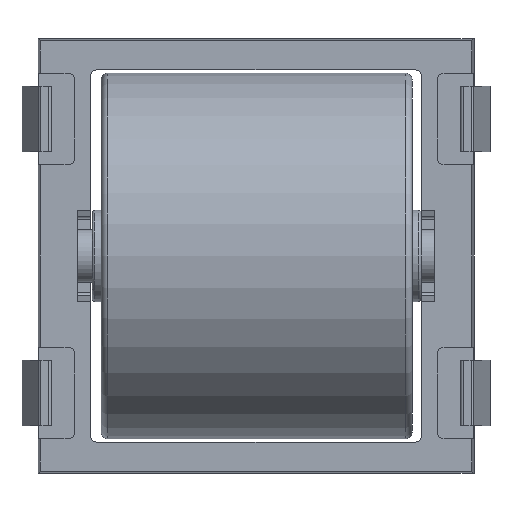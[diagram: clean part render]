
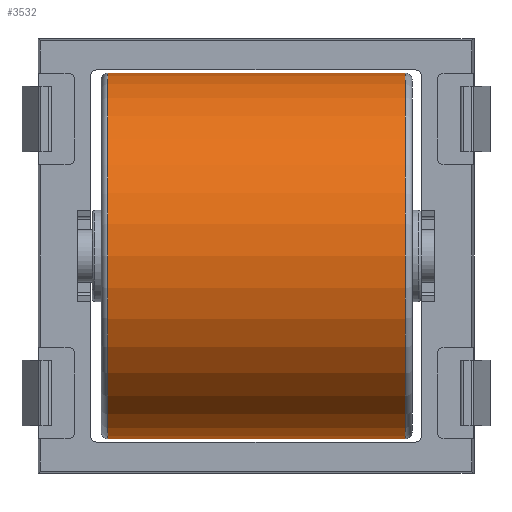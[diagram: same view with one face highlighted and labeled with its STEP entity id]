
A CAD part, front view. The second image highlights one B-rep face of the part: STEP entity #3532.
In plain terms, the highlighted cylindrical face has radius 14 mm (diameter 28 mm), a full revolution.
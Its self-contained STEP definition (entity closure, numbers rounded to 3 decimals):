
#1106=ORIENTED_EDGE('',*,*,#2130,.T.);
#1107=ORIENTED_EDGE('',*,*,#2128,.F.);
#2128=EDGE_CURVE('',#2632,#2632,#2936,.T.);
#2130=EDGE_CURVE('',#2634,#2634,#2938,.T.);
#2632=VERTEX_POINT('',#5426);
#2634=VERTEX_POINT('',#5432);
#2936=CIRCLE('',#3822,14.);
#2938=CIRCLE('',#3826,14.);
#3062=EDGE_LOOP('',(#1106));
#3063=EDGE_LOOP('',(#1107));
#3278=FACE_BOUND('',#3062,.T.);
#3279=FACE_BOUND('',#3063,.T.);
#3465=CYLINDRICAL_SURFACE('',#3825,14.);
#3532=ADVANCED_FACE('',(#3278,#3279),#3465,.T.);
#3822=AXIS2_PLACEMENT_3D('',#5425,#4322,#4323);
#3825=AXIS2_PLACEMENT_3D('',#5430,#4328,#4329);
#3826=AXIS2_PLACEMENT_3D('',#5431,#4330,#4331);
#4322=DIRECTION('',(0.,0.,1.));
#4323=DIRECTION('',(1.,0.,0.));
#4328=DIRECTION('',(0.,0.,1.));
#4329=DIRECTION('',(1.,0.,0.));
#4330=DIRECTION('',(0.,0.,1.));
#4331=DIRECTION('',(1.,0.,0.));
#5425=CARTESIAN_POINT('',(0.,0.,11.4));
#5426=CARTESIAN_POINT('',(14.,0.,11.4));
#5430=CARTESIAN_POINT('',(0.,0.,12.6));
#5431=CARTESIAN_POINT('',(0.,0.,-11.4));
#5432=CARTESIAN_POINT('',(14.,0.,-11.4));
